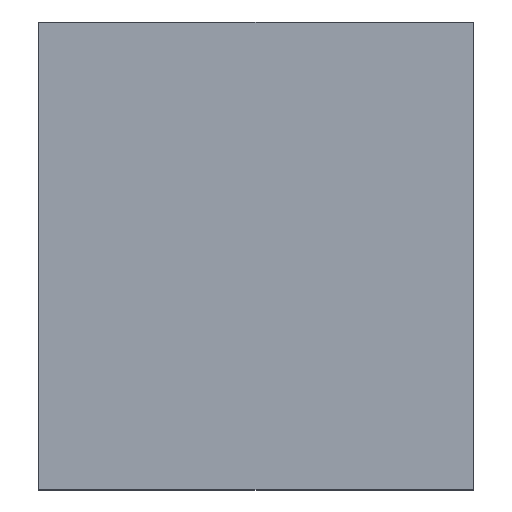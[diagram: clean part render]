
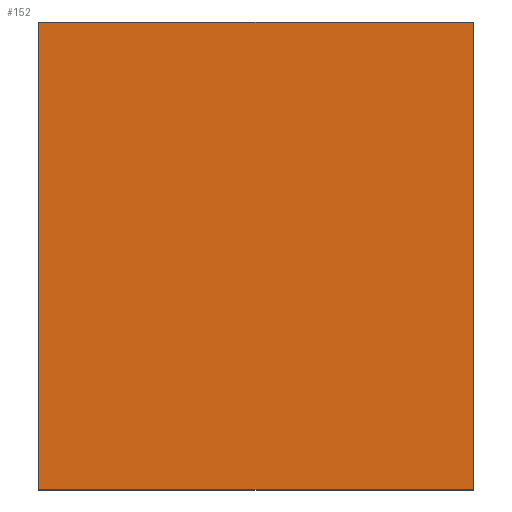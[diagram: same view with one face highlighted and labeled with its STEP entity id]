
A CAD part, top view. The second image highlights one B-rep face of the part: STEP entity #152.
In plain terms, the highlighted planar face has unit normal (0, 0, 1).
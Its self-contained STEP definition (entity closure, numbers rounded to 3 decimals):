
#7 = DIRECTION ( 'NONE',  ( 0., 0., 1. ) ) ;
#25 = DIRECTION ( 'NONE',  ( -1., 0., 0. ) ) ;
#28 = VERTEX_POINT ( 'NONE', #119 ) ;
#30 = CARTESIAN_POINT ( 'NONE',  ( 53., -61., 0. ) ) ;
#34 = LINE ( 'NONE', #50, #49 ) ;
#39 = EDGE_CURVE ( 'NONE', #212, #88, #34, .T. ) ;
#49 = VECTOR ( 'NONE', #193, 1000. ) ;
#50 = CARTESIAN_POINT ( 'NONE',  ( -50., -61., 0. ) ) ;
#56 = EDGE_CURVE ( 'NONE', #88, #127, #195, .T. ) ;
#69 = CARTESIAN_POINT ( 'NONE',  ( -50., 50., 0. ) ) ;
#70 = ORIENTED_EDGE ( 'NONE', *, *, #56, .T. ) ;
#72 = PLANE ( 'NONE',  #186 ) ;
#73 = VECTOR ( 'NONE', #90, 1000. ) ;
#82 = EDGE_CURVE ( 'NONE', #28, #212, #183, .T. ) ;
#87 = CARTESIAN_POINT ( 'NONE',  ( 53., 50., 0. ) ) ;
#88 = VERTEX_POINT ( 'NONE', #30 ) ;
#90 = DIRECTION ( 'NONE',  ( 0., -1., 0. ) ) ;
#94 = CARTESIAN_POINT ( 'NONE',  ( 53., 50., 0. ) ) ;
#104 = CARTESIAN_POINT ( 'NONE',  ( 53., -61., 0. ) ) ;
#106 = EDGE_CURVE ( 'NONE', #127, #28, #126, .T. ) ;
#112 = VECTOR ( 'NONE', #136, 1000. ) ;
#119 = CARTESIAN_POINT ( 'NONE',  ( -50., 50., 0. ) ) ;
#122 = EDGE_LOOP ( 'NONE', ( #178, #198, #70, #236 ) ) ;
#126 = LINE ( 'NONE', #87, #171 ) ;
#127 = VERTEX_POINT ( 'NONE', #94 ) ;
#136 = DIRECTION ( 'NONE',  ( 0., 1., 0. ) ) ;
#147 = DIRECTION ( 'NONE',  ( 1., 0., 0. ) ) ;
#152 = ADVANCED_FACE ( 'NONE', ( #207 ), #72, .T. ) ;
#171 = VECTOR ( 'NONE', #25, 1000. ) ;
#178 = ORIENTED_EDGE ( 'NONE', *, *, #82, .T. ) ;
#183 = LINE ( 'NONE', #69, #73 ) ;
#186 = AXIS2_PLACEMENT_3D ( 'NONE', #229, #7, #147 ) ;
#187 = CARTESIAN_POINT ( 'NONE',  ( -50., -61., 0. ) ) ;
#193 = DIRECTION ( 'NONE',  ( 1., 0., 0. ) ) ;
#195 = LINE ( 'NONE', #104, #112 ) ;
#198 = ORIENTED_EDGE ( 'NONE', *, *, #39, .T. ) ;
#207 = FACE_OUTER_BOUND ( 'NONE', #122, .T. ) ;
#212 = VERTEX_POINT ( 'NONE', #187 ) ;
#229 = CARTESIAN_POINT ( 'NONE',  ( 0., 0., 0. ) ) ;
#236 = ORIENTED_EDGE ( 'NONE', *, *, #106, .T. ) ;
